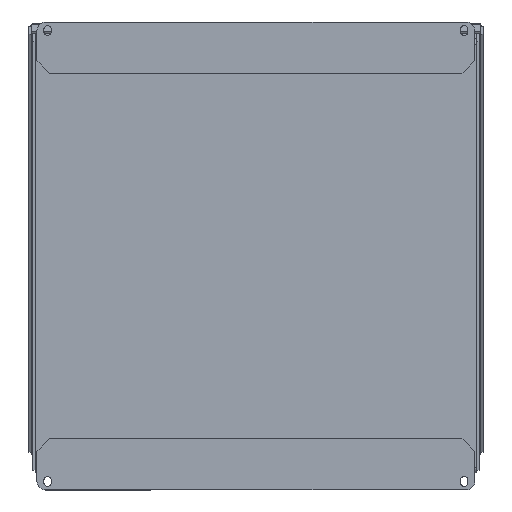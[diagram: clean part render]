
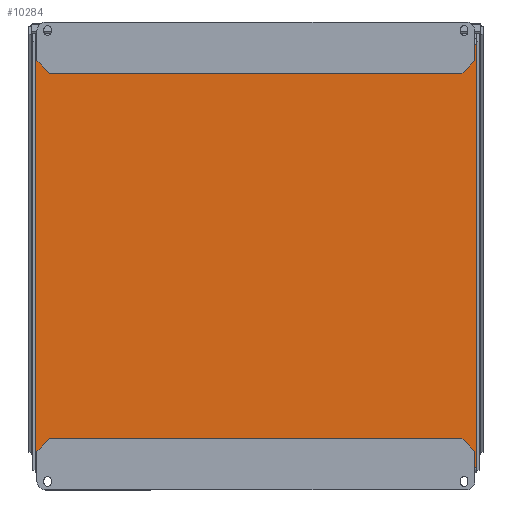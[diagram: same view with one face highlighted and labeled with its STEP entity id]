
A CAD part, front view. The second image highlights one B-rep face of the part: STEP entity #10284.
In plain terms, the highlighted planar face has unit normal (0, -1, 0) as drawn and (0, 0, -1) by its records, which use the part's own axes.
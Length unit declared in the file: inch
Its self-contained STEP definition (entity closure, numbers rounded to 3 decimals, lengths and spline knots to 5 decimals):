
#4801 = CARTESIAN_POINT ( 'NONE',  ( -6.42, 12.473, 0. ) ) ;
#4807 = CARTESIAN_POINT ( 'NONE',  ( -6.42, 0.152, 0. ) ) ;
#4863 = DIRECTION ( 'NONE',  ( 1., 0., 0. ) ) ;
#4864 = VECTOR ( 'NONE', #4863, 39.37008 ) ;
#4865 = CARTESIAN_POINT ( 'NONE',  ( -6.42, 12.473, 0. ) ) ;
#4866 = LINE ( 'NONE', #4865, #4864 ) ;
#4890 = LINE ( 'NONE', #4954, #4953 ) ;
#4895 = DIRECTION ( 'NONE',  ( -1., 0., 0. ) ) ;
#4896 = DIRECTION ( 'NONE',  ( 0., 0., -1. ) ) ;
#4897 = CARTESIAN_POINT ( 'NONE',  ( -6.42, 12.625, 0. ) ) ;
#4898 = AXIS2_PLACEMENT_3D ( 'NONE', #4897, #4896, #4895 ) ;
#4899 = PLANE ( 'NONE',  #4898 ) ;
#4901 = FACE_OUTER_BOUND ( 'NONE', #10285, .T. ) ;
#4935 = CARTESIAN_POINT ( 'NONE',  ( 6.42, 12.473, 0. ) ) ;
#4936 = DIRECTION ( 'NONE',  ( 0., 1., 0. ) ) ;
#4937 = VECTOR ( 'NONE', #4936, 39.37008 ) ;
#4938 = CARTESIAN_POINT ( 'NONE',  ( 6.42, 0., 0. ) ) ;
#4939 = LINE ( 'NONE', #4938, #4937 ) ;
#4940 = CARTESIAN_POINT ( 'NONE',  ( 6.42, 0.152, 0. ) ) ;
#4952 = DIRECTION ( 'NONE',  ( 0., -1., 0. ) ) ;
#4953 = VECTOR ( 'NONE', #4952, 39.37008 ) ;
#4954 = CARTESIAN_POINT ( 'NONE',  ( -6.42, 0., 0. ) ) ;
#5048 = DIRECTION ( 'NONE',  ( -1., 0., 0. ) ) ;
#5049 = VECTOR ( 'NONE', #5048, 39.37008 ) ;
#5050 = CARTESIAN_POINT ( 'NONE',  ( 6.42, 0.152, 0. ) ) ;
#5051 = LINE ( 'NONE', #5050, #5049 ) ;
#10229 = VERTEX_POINT ( 'NONE', #4807 ) ;
#10234 = VERTEX_POINT ( 'NONE', #4801 ) ;
#10266 = ORIENTED_EDGE ( 'NONE', *, *, #10288, .F. ) ;
#10267 = ORIENTED_EDGE ( 'NONE', *, *, #10268, .T. ) ;
#10268 = EDGE_CURVE ( 'NONE', #10234, #10297, #4866, .T. ) ;
#10284 = ADVANCED_FACE ( 'NONE', ( #4901 ), #4899, .T. ) ;
#10285 = EDGE_LOOP ( 'NONE', ( #10340, #10341, #10266, #10267 ) ) ;
#10288 = EDGE_CURVE ( 'NONE', #10234, #10229, #4890, .T. ) ;
#10294 = VERTEX_POINT ( 'NONE', #4940 ) ;
#10296 = EDGE_CURVE ( 'NONE', #10294, #10297, #4939, .T. ) ;
#10297 = VERTEX_POINT ( 'NONE', #4935 ) ;
#10340 = ORIENTED_EDGE ( 'NONE', *, *, #10296, .F. ) ;
#10341 = ORIENTED_EDGE ( 'NONE', *, *, #10342, .T. ) ;
#10342 = EDGE_CURVE ( 'NONE', #10294, #10229, #5051, .T. ) ;
